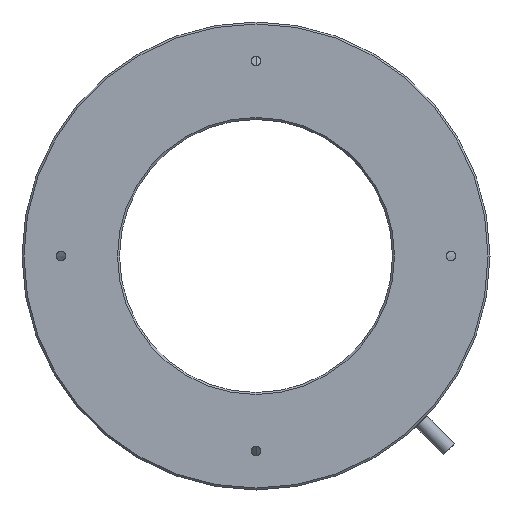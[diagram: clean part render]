
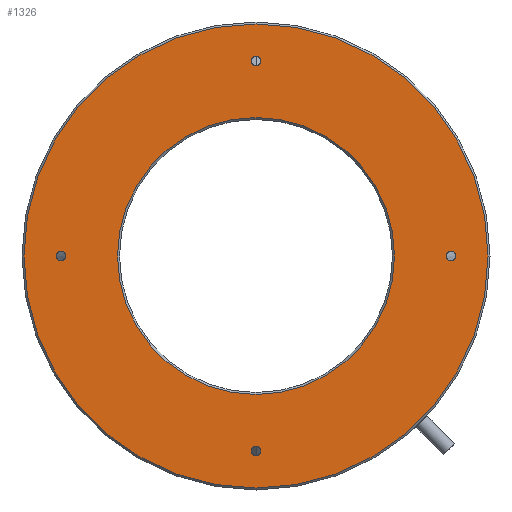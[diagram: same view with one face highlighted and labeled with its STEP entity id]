
A CAD part, front view. The second image highlights one B-rep face of the part: STEP entity #1326.
In plain terms, the highlighted planar face has unit normal (0, -1, 0).
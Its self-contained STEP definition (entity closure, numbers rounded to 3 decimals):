
#2 = CARTESIAN_POINT ( 'NONE',  ( 0., 0., 0. ) ) ;
#16 = CIRCLE ( 'NONE', #1373, 59.5 ) ;
#19 = CARTESIAN_POINT ( 'NONE',  ( 0., 0., -50. ) ) ;
#23 = FACE_BOUND ( 'NONE', #460, .T. ) ;
#34 = EDGE_CURVE ( 'NONE', #198, #3328, #2802, .T. ) ;
#42 = CIRCLE ( 'NONE', #2191, 1.25 ) ;
#44 = DIRECTION ( 'NONE',  ( 0., -1., 0. ) ) ;
#97 = CARTESIAN_POINT ( 'NONE',  ( 0., 0., 50. ) ) ;
#111 = CARTESIAN_POINT ( 'NONE',  ( 0., 0., 35.5 ) ) ;
#141 = CIRCLE ( 'NONE', #1166, 1.25 ) ;
#151 = DIRECTION ( 'NONE',  ( 0., -1., 0. ) ) ;
#152 = AXIS2_PLACEMENT_3D ( 'NONE', #97, #1887, #361 ) ;
#155 = VERTEX_POINT ( 'NONE', #1779 ) ;
#198 = VERTEX_POINT ( 'NONE', #2267 ) ;
#237 = CIRCLE ( 'NONE', #731, 59.5 ) ;
#316 = EDGE_CURVE ( 'NONE', #627, #1956, #879, .T. ) ;
#321 = CIRCLE ( 'NONE', #770, 1.25 ) ;
#327 = EDGE_LOOP ( 'NONE', ( #991, #1901 ) ) ;
#337 = CARTESIAN_POINT ( 'NONE',  ( 1.25, 0., -50. ) ) ;
#345 = CIRCLE ( 'NONE', #1557, 1.25 ) ;
#353 = DIRECTION ( 'NONE',  ( 0., -1., 0. ) ) ;
#361 = DIRECTION ( 'NONE',  ( 1., 0., 0. ) ) ;
#373 = AXIS2_PLACEMENT_3D ( 'NONE', #2855, #353, #1395 ) ;
#460 = EDGE_LOOP ( 'NONE', ( #1200, #2417 ) ) ;
#468 = CARTESIAN_POINT ( 'NONE',  ( -50., 0., -1.25 ) ) ;
#491 = EDGE_CURVE ( 'NONE', #2133, #2054, #321, .T. ) ;
#565 = CARTESIAN_POINT ( 'NONE',  ( -50., 0., 0. ) ) ;
#572 = EDGE_LOOP ( 'NONE', ( #1543, #2770 ) ) ;
#576 = DIRECTION ( 'NONE',  ( 0., 1., 0. ) ) ;
#577 = CARTESIAN_POINT ( 'NONE',  ( -50., 0., 1.25 ) ) ;
#605 = EDGE_CURVE ( 'NONE', #1158, #662, #667, .T. ) ;
#627 = VERTEX_POINT ( 'NONE', #2523 ) ;
#651 = ORIENTED_EDGE ( 'NONE', *, *, #3207, .F. ) ;
#662 = VERTEX_POINT ( 'NONE', #3042 ) ;
#667 = CIRCLE ( 'NONE', #1798, 1.25 ) ;
#678 = DIRECTION ( 'NONE',  ( 0., 0., -1. ) ) ;
#713 = EDGE_CURVE ( 'NONE', #1956, #627, #3161, .T. ) ;
#731 = AXIS2_PLACEMENT_3D ( 'NONE', #2305, #746, #2543 ) ;
#746 = DIRECTION ( 'NONE',  ( 0., -1., 0. ) ) ;
#749 = CARTESIAN_POINT ( 'NONE',  ( 0., 0., 50. ) ) ;
#765 = CARTESIAN_POINT ( 'NONE',  ( 0., 0., 0. ) ) ;
#770 = AXIS2_PLACEMENT_3D ( 'NONE', #565, #2554, #1002 ) ;
#774 = DIRECTION ( 'NONE',  ( 0., -1., 0. ) ) ;
#801 = DIRECTION ( 'NONE',  ( -1., 0., 0. ) ) ;
#839 = CARTESIAN_POINT ( 'NONE',  ( 0., 0., 59.5 ) ) ;
#879 = CIRCLE ( 'NONE', #1511, 35.5 ) ;
#884 = ORIENTED_EDGE ( 'NONE', *, *, #1761, .F. ) ;
#906 = AXIS2_PLACEMENT_3D ( 'NONE', #2185, #1114, #1561 ) ;
#920 = EDGE_LOOP ( 'NONE', ( #651, #2951 ) ) ;
#952 = EDGE_LOOP ( 'NONE', ( #1274, #1293 ) ) ;
#991 = ORIENTED_EDGE ( 'NONE', *, *, #316, .F. ) ;
#1002 = DIRECTION ( 'NONE',  ( 0., 0., 1. ) ) ;
#1005 = DIRECTION ( 'NONE',  ( 1., 0., 0. ) ) ;
#1007 = EDGE_CURVE ( 'NONE', #662, #1158, #141, .T. ) ;
#1114 = DIRECTION ( 'NONE',  ( 0., -1., 0. ) ) ;
#1158 = VERTEX_POINT ( 'NONE', #337 ) ;
#1166 = AXIS2_PLACEMENT_3D ( 'NONE', #19, #774, #801 ) ;
#1179 = CARTESIAN_POINT ( 'NONE',  ( 50., 0., 1.25 ) ) ;
#1198 = DIRECTION ( 'NONE',  ( 0., -1., 0. ) ) ;
#1200 = ORIENTED_EDGE ( 'NONE', *, *, #2759, .F. ) ;
#1274 = ORIENTED_EDGE ( 'NONE', *, *, #2403, .T. ) ;
#1293 = ORIENTED_EDGE ( 'NONE', *, *, #2907, .T. ) ;
#1301 = FACE_OUTER_BOUND ( 'NONE', #952, .T. ) ;
#1317 = VERTEX_POINT ( 'NONE', #839 ) ;
#1326 = ADVANCED_FACE ( 'NONE', ( #23, #1380, #2669, #1979, #2745, #1301 ), #2606, .F. ) ;
#1373 = AXIS2_PLACEMENT_3D ( 'NONE', #1560, #44, #1827 ) ;
#1380 = FACE_BOUND ( 'NONE', #572, .T. ) ;
#1395 = DIRECTION ( 'NONE',  ( 0., 0., -1. ) ) ;
#1511 = AXIS2_PLACEMENT_3D ( 'NONE', #765, #2412, #2326 ) ;
#1543 = ORIENTED_EDGE ( 'NONE', *, *, #1007, .F. ) ;
#1557 = AXIS2_PLACEMENT_3D ( 'NONE', #1686, #151, #678 ) ;
#1560 = CARTESIAN_POINT ( 'NONE',  ( 0., 0., 0. ) ) ;
#1561 = DIRECTION ( 'NONE',  ( 0., 0., -1. ) ) ;
#1686 = CARTESIAN_POINT ( 'NONE',  ( 50., 0., 0. ) ) ;
#1761 = EDGE_CURVE ( 'NONE', #3328, #198, #345, .T. ) ;
#1779 = CARTESIAN_POINT ( 'NONE',  ( 0., 0., -59.5 ) ) ;
#1798 = AXIS2_PLACEMENT_3D ( 'NONE', #2092, #3136, #2006 ) ;
#1827 = DIRECTION ( 'NONE',  ( 0., 0., -1. ) ) ;
#1887 = DIRECTION ( 'NONE',  ( 0., -1., 0. ) ) ;
#1901 = ORIENTED_EDGE ( 'NONE', *, *, #713, .F. ) ;
#1915 = CIRCLE ( 'NONE', #152, 1.25 ) ;
#1956 = VERTEX_POINT ( 'NONE', #111 ) ;
#1979 = FACE_BOUND ( 'NONE', #2426, .T. ) ;
#2006 = DIRECTION ( 'NONE',  ( -1., 0., 0. ) ) ;
#2054 = VERTEX_POINT ( 'NONE', #577 ) ;
#2061 = DIRECTION ( 'NONE',  ( 0., 0., 1. ) ) ;
#2092 = CARTESIAN_POINT ( 'NONE',  ( 0., 0., -50. ) ) ;
#2133 = VERTEX_POINT ( 'NONE', #468 ) ;
#2176 = ORIENTED_EDGE ( 'NONE', *, *, #34, .F. ) ;
#2185 = CARTESIAN_POINT ( 'NONE',  ( 50., 0., 0. ) ) ;
#2191 = AXIS2_PLACEMENT_3D ( 'NONE', #2734, #1198, #2989 ) ;
#2260 = EDGE_CURVE ( 'NONE', #2870, #3251, #2391, .T. ) ;
#2267 = CARTESIAN_POINT ( 'NONE',  ( 50., 0., -1.25 ) ) ;
#2305 = CARTESIAN_POINT ( 'NONE',  ( 0., 0., 0. ) ) ;
#2320 = AXIS2_PLACEMENT_3D ( 'NONE', #2, #576, #2061 ) ;
#2326 = DIRECTION ( 'NONE',  ( 0., 0., -1. ) ) ;
#2391 = CIRCLE ( 'NONE', #2819, 1.25 ) ;
#2403 = EDGE_CURVE ( 'NONE', #1317, #155, #16, .T. ) ;
#2412 = DIRECTION ( 'NONE',  ( 0., -1., 0. ) ) ;
#2417 = ORIENTED_EDGE ( 'NONE', *, *, #491, .F. ) ;
#2426 = EDGE_LOOP ( 'NONE', ( #2176, #884 ) ) ;
#2523 = CARTESIAN_POINT ( 'NONE',  ( 0., 0., -35.5 ) ) ;
#2543 = DIRECTION ( 'NONE',  ( 0., 0., -1. ) ) ;
#2548 = DIRECTION ( 'NONE',  ( 0., -1., 0. ) ) ;
#2554 = DIRECTION ( 'NONE',  ( 0., -1., 0. ) ) ;
#2606 = PLANE ( 'NONE',  #2320 ) ;
#2660 = CARTESIAN_POINT ( 'NONE',  ( 1.25, 0., 50. ) ) ;
#2669 = FACE_BOUND ( 'NONE', #920, .T. ) ;
#2734 = CARTESIAN_POINT ( 'NONE',  ( -50., 0., 0. ) ) ;
#2745 = FACE_BOUND ( 'NONE', #327, .T. ) ;
#2759 = EDGE_CURVE ( 'NONE', #2054, #2133, #42, .T. ) ;
#2770 = ORIENTED_EDGE ( 'NONE', *, *, #605, .F. ) ;
#2802 = CIRCLE ( 'NONE', #906, 1.25 ) ;
#2819 = AXIS2_PLACEMENT_3D ( 'NONE', #749, #2548, #1005 ) ;
#2855 = CARTESIAN_POINT ( 'NONE',  ( 0., 0., 0. ) ) ;
#2870 = VERTEX_POINT ( 'NONE', #3016 ) ;
#2907 = EDGE_CURVE ( 'NONE', #155, #1317, #237, .T. ) ;
#2951 = ORIENTED_EDGE ( 'NONE', *, *, #2260, .F. ) ;
#2989 = DIRECTION ( 'NONE',  ( 0., 0., 1. ) ) ;
#3016 = CARTESIAN_POINT ( 'NONE',  ( -1.25, 0., 50. ) ) ;
#3042 = CARTESIAN_POINT ( 'NONE',  ( -1.25, 0., -50. ) ) ;
#3136 = DIRECTION ( 'NONE',  ( 0., -1., 0. ) ) ;
#3161 = CIRCLE ( 'NONE', #373, 35.5 ) ;
#3207 = EDGE_CURVE ( 'NONE', #3251, #2870, #1915, .T. ) ;
#3251 = VERTEX_POINT ( 'NONE', #2660 ) ;
#3328 = VERTEX_POINT ( 'NONE', #1179 ) ;
